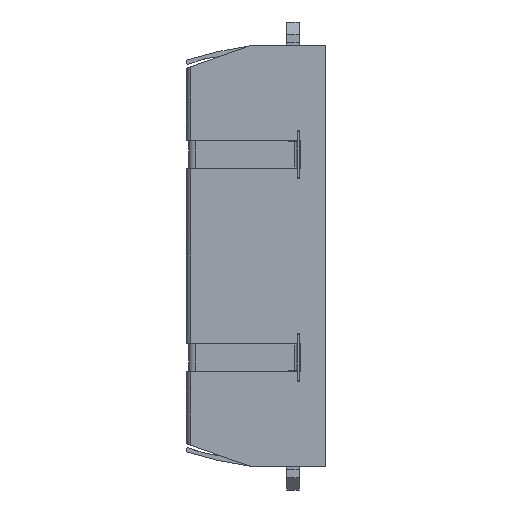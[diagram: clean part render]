
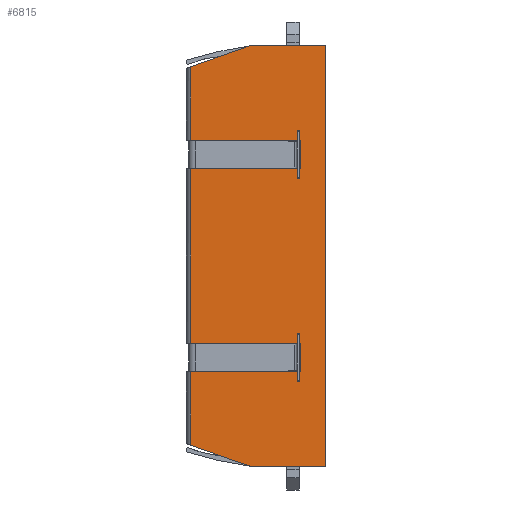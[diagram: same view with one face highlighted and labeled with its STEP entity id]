
A CAD part, left-side view. The second image highlights one B-rep face of the part: STEP entity #6815.
In plain terms, the highlighted planar face has unit normal (-1, 0.009, 0).
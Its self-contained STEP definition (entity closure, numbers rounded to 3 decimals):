
#157 = VECTOR ( 'NONE', #6027, 1000. ) ;
#179 = CARTESIAN_POINT ( 'NONE',  ( -38.249, 17.841, -25.062 ) ) ;
#350 = ORIENTED_EDGE ( 'NONE', *, *, #7306, .F. ) ;
#441 = VECTOR ( 'NONE', #934, 1000. ) ;
#480 = EDGE_CURVE ( 'NONE', #8077, #1333, #1724, .T. ) ;
#487 = DIRECTION ( 'NONE',  ( 0., 0., 1. ) ) ;
#788 = DIRECTION ( 'NONE',  ( -0.009, -1., 0. ) ) ;
#864 = VERTEX_POINT ( 'NONE', #5326 ) ;
#934 = DIRECTION ( 'NONE',  ( 0.009, 1., 0.009 ) ) ;
#967 = VECTOR ( 'NONE', #487, 1000. ) ;
#1130 = ORIENTED_EDGE ( 'NONE', *, *, #8772, .F. ) ;
#1160 = CARTESIAN_POINT ( 'NONE',  ( -38.405, 0., 11.535 ) ) ;
#1181 = PLANE ( 'NONE',  #1729 ) ;
#1295 = VECTOR ( 'NONE', #788, 1000. ) ;
#1331 = CARTESIAN_POINT ( 'NONE',  ( -38.405, 0., -27.928 ) ) ;
#1333 = VERTEX_POINT ( 'NONE', #8147 ) ;
#1416 = CARTESIAN_POINT ( 'NONE',  ( -38.405, 0., 42.55 ) ) ;
#1459 = DIRECTION ( 'NONE',  ( 0.009, 1., 0. ) ) ;
#1483 = VECTOR ( 'NONE', #3824, 1000. ) ;
#1678 = DIRECTION ( 'NONE',  ( 0., 0., 1. ) ) ;
#1695 = CARTESIAN_POINT ( 'NONE',  ( -38.249, 17.841, 42.55 ) ) ;
#1724 = LINE ( 'NONE', #3567, #7041 ) ;
#1729 = AXIS2_PLACEMENT_3D ( 'NONE', #1416, #2126, #4797 ) ;
#1930 = ORIENTED_EDGE ( 'NONE', *, *, #9618, .T. ) ;
#2126 = DIRECTION ( 'NONE',  ( 1., -0.009, 0. ) ) ;
#2226 = ORIENTED_EDGE ( 'NONE', *, *, #8919, .F. ) ;
#2265 = CARTESIAN_POINT ( 'NONE',  ( -38.376, 3.37, 15.335 ) ) ;
#2275 = DIRECTION ( 'NONE',  ( 0.009, 1., 0. ) ) ;
#2585 = VERTEX_POINT ( 'NONE', #4447 ) ;
#2797 = LINE ( 'NONE', #6567, #8394 ) ;
#2819 = VERTEX_POINT ( 'NONE', #3846 ) ;
#2839 = CARTESIAN_POINT ( 'NONE',  ( -38.376, 3.37, 11.535 ) ) ;
#2985 = VECTOR ( 'NONE', #8921, 1000. ) ;
#3186 = LINE ( 'NONE', #10369, #157 ) ;
#3239 = VERTEX_POINT ( 'NONE', #9916 ) ;
#3293 = VECTOR ( 'NONE', #7553, 1000. ) ;
#3536 = LINE ( 'NONE', #11510, #11490 ) ;
#3567 = CARTESIAN_POINT ( 'NONE',  ( -38.249, 17.841, 42.55 ) ) ;
#3748 = CARTESIAN_POINT ( 'NONE',  ( -38.318, 10.003, -27.837 ) ) ;
#3824 = DIRECTION ( 'NONE',  ( -0.009, -1., 0.009 ) ) ;
#3846 = CARTESIAN_POINT ( 'NONE',  ( -38.249, 17.841, 25.062 ) ) ;
#3932 = LINE ( 'NONE', #8606, #967 ) ;
#4039 = EDGE_CURVE ( 'NONE', #5280, #4777, #7205, .T. ) ;
#4092 = CARTESIAN_POINT ( 'NONE',  ( -38.249, 17.841, 15.335 ) ) ;
#4192 = LINE ( 'NONE', #5258, #9576 ) ;
#4327 = VERTEX_POINT ( 'NONE', #11124 ) ;
#4447 = CARTESIAN_POINT ( 'NONE',  ( -38.376, 3.37, -15.335 ) ) ;
#4468 = LINE ( 'NONE', #7125, #6368 ) ;
#4491 = LINE ( 'NONE', #1695, #2985 ) ;
#4526 = ORIENTED_EDGE ( 'NONE', *, *, #7729, .F. ) ;
#4723 = VECTOR ( 'NONE', #1459, 1000. ) ;
#4777 = VERTEX_POINT ( 'NONE', #3748 ) ;
#4797 = DIRECTION ( 'NONE',  ( 0.009, 1., 0. ) ) ;
#5197 = EDGE_CURVE ( 'NONE', #1333, #7678, #6545, .T. ) ;
#5258 = CARTESIAN_POINT ( 'NONE',  ( -38.405, 0., 0. ) ) ;
#5280 = VERTEX_POINT ( 'NONE', #1331 ) ;
#5326 = CARTESIAN_POINT ( 'NONE',  ( -38.376, 3.37, -11.535 ) ) ;
#5555 = VERTEX_POINT ( 'NONE', #4092 ) ;
#5872 = ORIENTED_EDGE ( 'NONE', *, *, #9693, .F. ) ;
#6027 = DIRECTION ( 'NONE',  ( 0., 0., 1. ) ) ;
#6142 = EDGE_CURVE ( 'NONE', #7678, #6280, #3932, .T. ) ;
#6280 = VERTEX_POINT ( 'NONE', #2265 ) ;
#6368 = VECTOR ( 'NONE', #1678, 1000. ) ;
#6481 = LINE ( 'NONE', #10001, #1483 ) ;
#6508 = ORIENTED_EDGE ( 'NONE', *, *, #6142, .F. ) ;
#6545 = LINE ( 'NONE', #1160, #3293 ) ;
#6567 = CARTESIAN_POINT ( 'NONE',  ( -38.249, 17.841, 25.062 ) ) ;
#6773 = CARTESIAN_POINT ( 'NONE',  ( -38.405, 0., 15.335 ) ) ;
#6815 = ADVANCED_FACE ( 'NONE', ( #10513 ), #1181, .F. ) ;
#7006 = CARTESIAN_POINT ( 'NONE',  ( -38.405, 0., -15.335 ) ) ;
#7041 = VECTOR ( 'NONE', #7171, 1000. ) ;
#7078 = ORIENTED_EDGE ( 'NONE', *, *, #9385, .F. ) ;
#7125 = CARTESIAN_POINT ( 'NONE',  ( -38.376, 3.37, 42.55 ) ) ;
#7171 = DIRECTION ( 'NONE',  ( 0., 0., 1. ) ) ;
#7205 = LINE ( 'NONE', #9043, #441 ) ;
#7306 = EDGE_CURVE ( 'NONE', #4327, #2585, #10540, .T. ) ;
#7553 = DIRECTION ( 'NONE',  ( -0.009, -1., 0. ) ) ;
#7678 = VERTEX_POINT ( 'NONE', #2839 ) ;
#7729 = EDGE_CURVE ( 'NONE', #5555, #2819, #3186, .T. ) ;
#7734 = EDGE_CURVE ( 'NONE', #864, #8077, #8561, .T. ) ;
#7867 = VECTOR ( 'NONE', #2275, 1000. ) ;
#7886 = EDGE_CURVE ( 'NONE', #3239, #9552, #6481, .T. ) ;
#8077 = VERTEX_POINT ( 'NONE', #8966 ) ;
#8147 = CARTESIAN_POINT ( 'NONE',  ( -38.249, 17.841, 11.535 ) ) ;
#8173 = ORIENTED_EDGE ( 'NONE', *, *, #11164, .F. ) ;
#8394 = VECTOR ( 'NONE', #10199, 1000. ) ;
#8468 = ORIENTED_EDGE ( 'NONE', *, *, #480, .F. ) ;
#8561 = LINE ( 'NONE', #10431, #4723 ) ;
#8572 = ORIENTED_EDGE ( 'NONE', *, *, #5197, .F. ) ;
#8606 = CARTESIAN_POINT ( 'NONE',  ( -38.376, 3.37, 42.55 ) ) ;
#8644 = ORIENTED_EDGE ( 'NONE', *, *, #4039, .F. ) ;
#8647 = EDGE_LOOP ( 'NONE', ( #4526, #2226, #6508, #8572, #8468, #10181, #8173, #350, #1130, #5872, #8644, #1930, #10484, #7078 ) ) ;
#8772 = EDGE_CURVE ( 'NONE', #11318, #4327, #4491, .T. ) ;
#8865 = CARTESIAN_POINT ( 'NONE',  ( -38.405, 0., 27.926 ) ) ;
#8919 = EDGE_CURVE ( 'NONE', #6280, #5555, #11438, .T. ) ;
#8921 = DIRECTION ( 'NONE',  ( 0., 0., 1. ) ) ;
#8966 = CARTESIAN_POINT ( 'NONE',  ( -38.249, 17.841, -11.535 ) ) ;
#9043 = CARTESIAN_POINT ( 'NONE',  ( -38.405, 0., -27.928 ) ) ;
#9385 = EDGE_CURVE ( 'NONE', #2819, #3239, #2797, .T. ) ;
#9552 = VERTEX_POINT ( 'NONE', #8865 ) ;
#9576 = VECTOR ( 'NONE', #11683, 1000. ) ;
#9618 = EDGE_CURVE ( 'NONE', #5280, #9552, #4192, .T. ) ;
#9693 = EDGE_CURVE ( 'NONE', #4777, #11318, #3536, .T. ) ;
#9916 = CARTESIAN_POINT ( 'NONE',  ( -38.318, 10.008, 27.835 ) ) ;
#10001 = CARTESIAN_POINT ( 'NONE',  ( -38.318, 10.008, 27.835 ) ) ;
#10181 = ORIENTED_EDGE ( 'NONE', *, *, #7734, .F. ) ;
#10199 = DIRECTION ( 'NONE',  ( -0.008, -0.943, 0.334 ) ) ;
#10369 = CARTESIAN_POINT ( 'NONE',  ( -38.249, 17.841, 42.55 ) ) ;
#10431 = CARTESIAN_POINT ( 'NONE',  ( -38.405, 0., -11.535 ) ) ;
#10484 = ORIENTED_EDGE ( 'NONE', *, *, #7886, .F. ) ;
#10513 = FACE_OUTER_BOUND ( 'NONE', #8647, .T. ) ;
#10540 = LINE ( 'NONE', #7006, #1295 ) ;
#10786 = DIRECTION ( 'NONE',  ( 0.008, 0.943, 0.334 ) ) ;
#11124 = CARTESIAN_POINT ( 'NONE',  ( -38.249, 17.841, -15.335 ) ) ;
#11164 = EDGE_CURVE ( 'NONE', #2585, #864, #4468, .T. ) ;
#11318 = VERTEX_POINT ( 'NONE', #179 ) ;
#11438 = LINE ( 'NONE', #6773, #7867 ) ;
#11490 = VECTOR ( 'NONE', #10786, 1000. ) ;
#11510 = CARTESIAN_POINT ( 'NONE',  ( -38.318, 10.003, -27.837 ) ) ;
#11683 = DIRECTION ( 'NONE',  ( 0., 0., 1. ) ) ;
